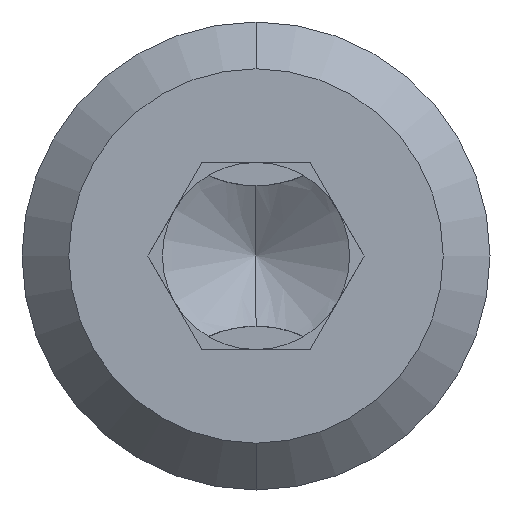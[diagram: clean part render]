
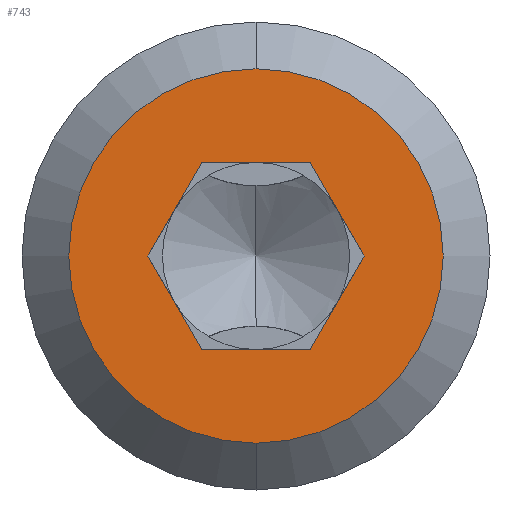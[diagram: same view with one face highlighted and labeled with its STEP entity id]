
A CAD part, front view. The second image highlights one B-rep face of the part: STEP entity #743.
In plain terms, the highlighted planar face has unit normal (0, -1, 0).
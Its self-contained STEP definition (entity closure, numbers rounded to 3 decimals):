
#68 = EDGE_CURVE ( 'NONE', #201, #2519, #1424, .T. ) ;
#120 = CARTESIAN_POINT ( 'NONE',  ( 2.309, -80., 0. ) ) ;
#151 = CARTESIAN_POINT ( 'NONE',  ( 1.155, -80., -2. ) ) ;
#181 = CARTESIAN_POINT ( 'NONE',  ( 0., -80., 0. ) ) ;
#201 = VERTEX_POINT ( 'NONE', #1978 ) ;
#361 = EDGE_CURVE ( 'NONE', #1645, #1996, #2615, .T. ) ;
#424 = CARTESIAN_POINT ( 'NONE',  ( -1.155, -80., 2. ) ) ;
#428 = DIRECTION ( 'NONE',  ( 0., 0., 1. ) ) ;
#432 = EDGE_CURVE ( 'NONE', #2441, #1645, #2105, .T. ) ;
#504 = DIRECTION ( 'NONE',  ( 0.5, 0., -0.866 ) ) ;
#517 = CARTESIAN_POINT ( 'NONE',  ( 2.232, -80., 0.134 ) ) ;
#576 = AXIS2_PLACEMENT_3D ( 'NONE', #1786, #1713, #1700 ) ;
#606 = CARTESIAN_POINT ( 'NONE',  ( 2.232, -80., -0.134 ) ) ;
#676 = DIRECTION ( 'NONE',  ( 0., 0., 1. ) ) ;
#684 = DIRECTION ( 'NONE',  ( 0., -1., 0. ) ) ;
#710 = CARTESIAN_POINT ( 'NONE',  ( 0., -80., 0. ) ) ;
#743 = ADVANCED_FACE ( 'NONE', ( #1463, #795 ), #2649, .F. ) ;
#765 = LINE ( 'NONE', #1306, #2668 ) ;
#795 = FACE_BOUND ( 'NONE', #1895, .T. ) ;
#883 = CARTESIAN_POINT ( 'NONE',  ( 2., -80., 2. ) ) ;
#981 = EDGE_LOOP ( 'NONE', ( #1869, #1946 ) ) ;
#1102 = EDGE_CURVE ( 'NONE', #1996, #1832, #1105, .T. ) ;
#1105 = LINE ( 'NONE', #517, #2939 ) ;
#1233 = CARTESIAN_POINT ( 'NONE',  ( -1.155, -80., -2. ) ) ;
#1255 = AXIS2_PLACEMENT_3D ( 'NONE', #181, #1937, #428 ) ;
#1306 = CARTESIAN_POINT ( 'NONE',  ( -1.232, -80., -1.866 ) ) ;
#1424 = CIRCLE ( 'NONE', #2091, 4. ) ;
#1463 = FACE_OUTER_BOUND ( 'NONE', #981, .T. ) ;
#1504 = LINE ( 'NONE', #2983, #2079 ) ;
#1625 = ORIENTED_EDGE ( 'NONE', *, *, #2867, .T. ) ;
#1645 = VERTEX_POINT ( 'NONE', #424 ) ;
#1676 = VERTEX_POINT ( 'NONE', #151 ) ;
#1700 = DIRECTION ( 'NONE',  ( 0., 0., 1. ) ) ;
#1713 = DIRECTION ( 'NONE',  ( 0., 1., 0. ) ) ;
#1733 = DIRECTION ( 'NONE',  ( -0.5, 0., -0.866 ) ) ;
#1780 = CARTESIAN_POINT ( 'NONE',  ( 1.155, -80., 2. ) ) ;
#1786 = CARTESIAN_POINT ( 'NONE',  ( 2., -80., 0. ) ) ;
#1832 = VERTEX_POINT ( 'NONE', #120 ) ;
#1851 = CARTESIAN_POINT ( 'NONE',  ( -2.309, -80., 0. ) ) ;
#1869 = ORIENTED_EDGE ( 'NONE', *, *, #3110, .T. ) ;
#1895 = EDGE_LOOP ( 'NONE', ( #1957, #2019, #3212, #2147, #1625, #3160 ) ) ;
#1937 = DIRECTION ( 'NONE',  ( 0., -1., 0. ) ) ;
#1946 = ORIENTED_EDGE ( 'NONE', *, *, #68, .T. ) ;
#1954 = VECTOR ( 'NONE', #2790, 1000. ) ;
#1957 = ORIENTED_EDGE ( 'NONE', *, *, #361, .T. ) ;
#1978 = CARTESIAN_POINT ( 'NONE',  ( 0., -80., -4. ) ) ;
#1987 = EDGE_CURVE ( 'NONE', #1676, #2259, #1504, .T. ) ;
#1996 = VERTEX_POINT ( 'NONE', #1780 ) ;
#2019 = ORIENTED_EDGE ( 'NONE', *, *, #1102, .T. ) ;
#2047 = DIRECTION ( 'NONE',  ( -0.5, 0., 0.866 ) ) ;
#2079 = VECTOR ( 'NONE', #2919, 1000. ) ;
#2091 = AXIS2_PLACEMENT_3D ( 'NONE', #710, #684, #676 ) ;
#2105 = LINE ( 'NONE', #3029, #3148 ) ;
#2147 = ORIENTED_EDGE ( 'NONE', *, *, #1987, .T. ) ;
#2259 = VERTEX_POINT ( 'NONE', #1233 ) ;
#2332 = CARTESIAN_POINT ( 'NONE',  ( 0., -80., 4. ) ) ;
#2431 = VECTOR ( 'NONE', #1733, 1000. ) ;
#2441 = VERTEX_POINT ( 'NONE', #1851 ) ;
#2446 = EDGE_CURVE ( 'NONE', #1832, #1676, #3132, .T. ) ;
#2519 = VERTEX_POINT ( 'NONE', #2332 ) ;
#2615 = LINE ( 'NONE', #883, #1954 ) ;
#2649 = PLANE ( 'NONE',  #576 ) ;
#2656 = DIRECTION ( 'NONE',  ( 0.5, 0., 0.866 ) ) ;
#2668 = VECTOR ( 'NONE', #2047, 1000. ) ;
#2790 = DIRECTION ( 'NONE',  ( 1., 0., 0. ) ) ;
#2803 = CIRCLE ( 'NONE', #1255, 4. ) ;
#2867 = EDGE_CURVE ( 'NONE', #2259, #2441, #765, .T. ) ;
#2919 = DIRECTION ( 'NONE',  ( -1., 0., 0. ) ) ;
#2939 = VECTOR ( 'NONE', #504, 1000. ) ;
#2983 = CARTESIAN_POINT ( 'NONE',  ( 2., -80., -2. ) ) ;
#3029 = CARTESIAN_POINT ( 'NONE',  ( -1.232, -80., 1.866 ) ) ;
#3110 = EDGE_CURVE ( 'NONE', #2519, #201, #2803, .T. ) ;
#3132 = LINE ( 'NONE', #606, #2431 ) ;
#3148 = VECTOR ( 'NONE', #2656, 1000. ) ;
#3160 = ORIENTED_EDGE ( 'NONE', *, *, #432, .T. ) ;
#3212 = ORIENTED_EDGE ( 'NONE', *, *, #2446, .T. ) ;
